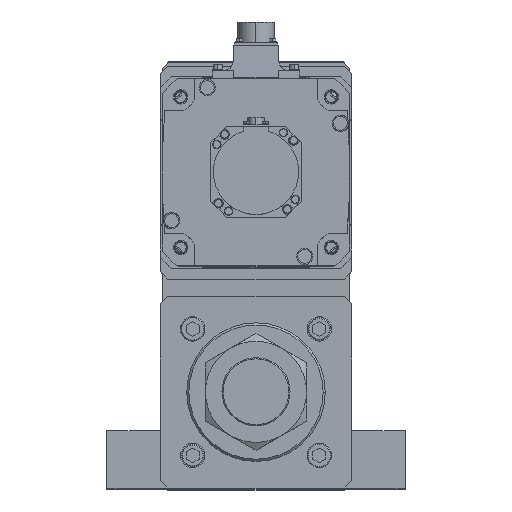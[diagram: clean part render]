
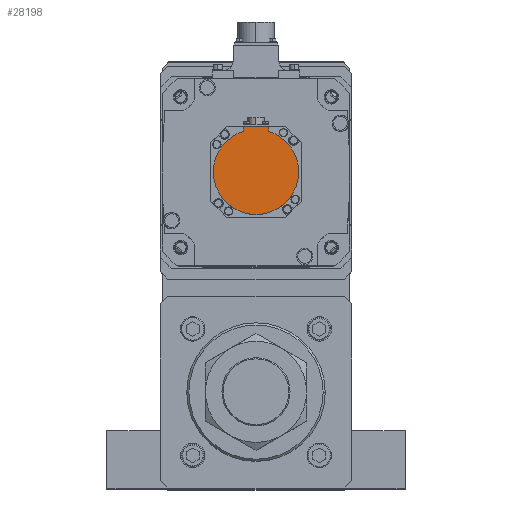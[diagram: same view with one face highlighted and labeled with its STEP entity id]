
A CAD part, top view. The second image highlights one B-rep face of the part: STEP entity #28198.
In plain terms, the highlighted planar face has unit normal (0, 0, 1) as drawn and (0, 0, -1) by its records, which use the part's own axes.
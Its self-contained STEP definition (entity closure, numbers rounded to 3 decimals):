
#161 = PLANE ( 'NONE',  #4523 ) ;
#2164 = ORIENTED_EDGE ( 'NONE', *, *, #22205, .F. ) ;
#2376 = CIRCLE ( 'NONE', #39234, 40. ) ;
#2785 = EDGE_CURVE ( 'NONE', #41874, #15224, #41489, .T. ) ;
#4297 = CARTESIAN_POINT ( 'NONE',  ( 0., -1.249, -178.5 ) ) ;
#4523 = AXIS2_PLACEMENT_3D ( 'NONE', #4297, #49462, #33006 ) ;
#4551 = ORIENTED_EDGE ( 'NONE', *, *, #43032, .F. ) ;
#4630 = CARTESIAN_POINT ( 'NONE',  ( 40., 0., -178.5 ) ) ;
#4646 = CARTESIAN_POINT ( 'NONE',  ( 12., -1.249, -178.5 ) ) ;
#5674 = DIRECTION ( 'NONE',  ( 1., 0., 0. ) ) ;
#6198 = CARTESIAN_POINT ( 'NONE',  ( 0., 0., -178.5 ) ) ;
#7466 = VERTEX_POINT ( 'NONE', #7574 ) ;
#7574 = CARTESIAN_POINT ( 'NONE',  ( 12., -42.5, -178.5 ) ) ;
#8607 = AXIS2_PLACEMENT_3D ( 'NONE', #17524, #30243, #5674 ) ;
#15166 = EDGE_CURVE ( 'NONE', #7466, #25718, #16923, .T. ) ;
#15224 = VERTEX_POINT ( 'NONE', #40798 ) ;
#16221 = ORIENTED_EDGE ( 'NONE', *, *, #29812, .T. ) ;
#16923 = LINE ( 'NONE', #20041, #22062 ) ;
#16935 = VECTOR ( 'NONE', #21570, 1000. ) ;
#17524 = CARTESIAN_POINT ( 'NONE',  ( 0., 0., -178.5 ) ) ;
#17954 = DIRECTION ( 'NONE',  ( 0., 0., 1. ) ) ;
#18534 = EDGE_CURVE ( 'NONE', #19077, #41874, #2376, .T. ) ;
#19077 = VERTEX_POINT ( 'NONE', #37874 ) ;
#20041 = CARTESIAN_POINT ( 'NONE',  ( 0., -42.5, -178.5 ) ) ;
#21570 = DIRECTION ( 'NONE',  ( 0., 1., 0. ) ) ;
#22062 = VECTOR ( 'NONE', #45097, 1000. ) ;
#22205 = EDGE_CURVE ( 'NONE', #15224, #23756, #35366, .T. ) ;
#22926 = DIRECTION ( 'NONE',  ( 1., 0., 0. ) ) ;
#23756 = VERTEX_POINT ( 'NONE', #41815 ) ;
#24034 = FACE_OUTER_BOUND ( 'NONE', #42458, .T. ) ;
#25240 = ORIENTED_EDGE ( 'NONE', *, *, #18534, .F. ) ;
#25718 = VERTEX_POINT ( 'NONE', #50924 ) ;
#28198 = ADVANCED_FACE ( 'NONE', ( #24034 ), #161, .F. ) ;
#29812 = EDGE_CURVE ( 'NONE', #25718, #23756, #45626, .T. ) ;
#29956 = CARTESIAN_POINT ( 'NONE',  ( -12., -40.329, -178.5 ) ) ;
#30243 = DIRECTION ( 'NONE',  ( 0., 0., 1. ) ) ;
#30423 = DIRECTION ( 'NONE',  ( 0., 0., 1. ) ) ;
#33006 = DIRECTION ( 'NONE',  ( 1., 0., 0. ) ) ;
#34064 = DIRECTION ( 'NONE',  ( 0., 1., 0. ) ) ;
#34267 = CARTESIAN_POINT ( 'NONE',  ( 0., 0., -178.5 ) ) ;
#34793 = ORIENTED_EDGE ( 'NONE', *, *, #15166, .T. ) ;
#35366 = CIRCLE ( 'NONE', #38977, 40. ) ;
#37874 = CARTESIAN_POINT ( 'NONE',  ( 12., -38.158, -178.5 ) ) ;
#38977 = AXIS2_PLACEMENT_3D ( 'NONE', #34267, #17954, #50725 ) ;
#39234 = AXIS2_PLACEMENT_3D ( 'NONE', #6198, #30423, #22926 ) ;
#40798 = CARTESIAN_POINT ( 'NONE',  ( -40., 0., -178.5 ) ) ;
#41242 = ORIENTED_EDGE ( 'NONE', *, *, #2785, .F. ) ;
#41489 = CIRCLE ( 'NONE', #8607, 40. ) ;
#41815 = CARTESIAN_POINT ( 'NONE',  ( -12., -38.158, -178.5 ) ) ;
#41874 = VERTEX_POINT ( 'NONE', #4630 ) ;
#42458 = EDGE_LOOP ( 'NONE', ( #16221, #2164, #41242, #25240, #4551, #34793 ) ) ;
#43032 = EDGE_CURVE ( 'NONE', #7466, #19077, #45802, .T. ) ;
#45097 = DIRECTION ( 'NONE',  ( -1., 0., 0. ) ) ;
#45626 = LINE ( 'NONE', #29956, #46912 ) ;
#45802 = LINE ( 'NONE', #4646, #16935 ) ;
#46912 = VECTOR ( 'NONE', #34064, 1000. ) ;
#49462 = DIRECTION ( 'NONE',  ( 0., 0., 1. ) ) ;
#50725 = DIRECTION ( 'NONE',  ( 1., 0., 0. ) ) ;
#50924 = CARTESIAN_POINT ( 'NONE',  ( -12., -42.5, -178.5 ) ) ;
